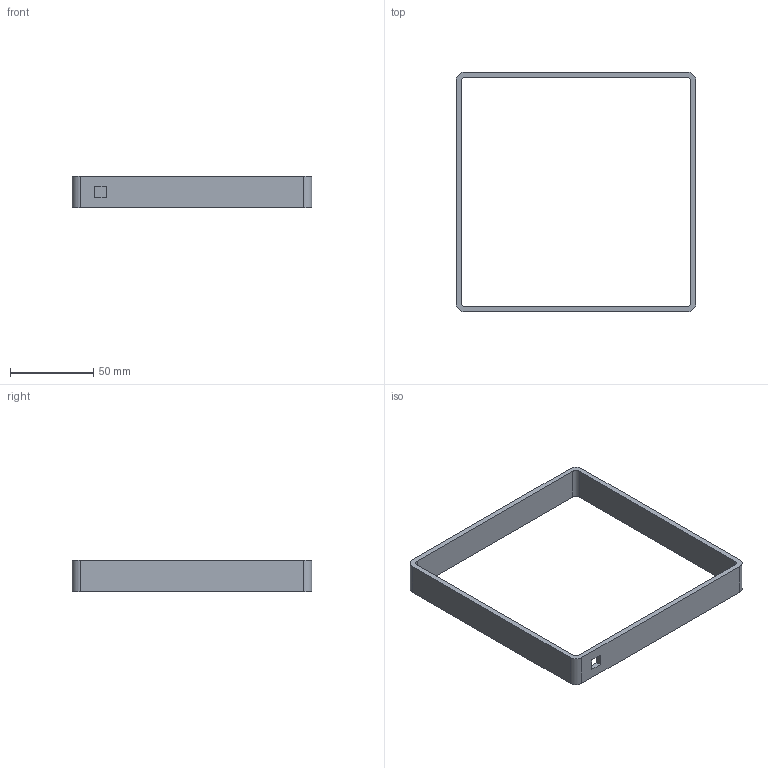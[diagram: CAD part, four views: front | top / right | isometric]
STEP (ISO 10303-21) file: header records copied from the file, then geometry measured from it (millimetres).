
FILE_DESCRIPTION(('FreeCAD Model'),'2;1');
FILE_NAME('Open CASCADE Shape Model','2026-11-06T11:24:15',('FreeCAD'),( 'FreeCAD'),'Open CASCADE STEP processor 7.8','FreeCAD','Unknown');
FILE_SCHEMA(('AUTOMOTIVE_DESIGN { 1 0 10303 214 1 1 1 1 }'));
Length unit declared in the file: millimetre
Products named in the file (1): Open CASCADE STEP translator 7.8 13
Bounding box: 144 x 144 x 19 mm (x, y, z)
Volume: 31740 mm3; surface area: 24513.6 mm2
Topology: 1 solids, 1 shells, 22 faces, 60 edges, 40 vertices
Faces by surface type: plane 14, cylinder 8
Entity records: 718 total; most frequent: CARTESIAN_POINT 123, DIRECTION 122, ORIENTED_EDGE 120, EDGE_CURVE 60, LINE 44, VECTOR 44, VERTEX_POINT 40, AXIS2_PLACEMENT_3D 39
